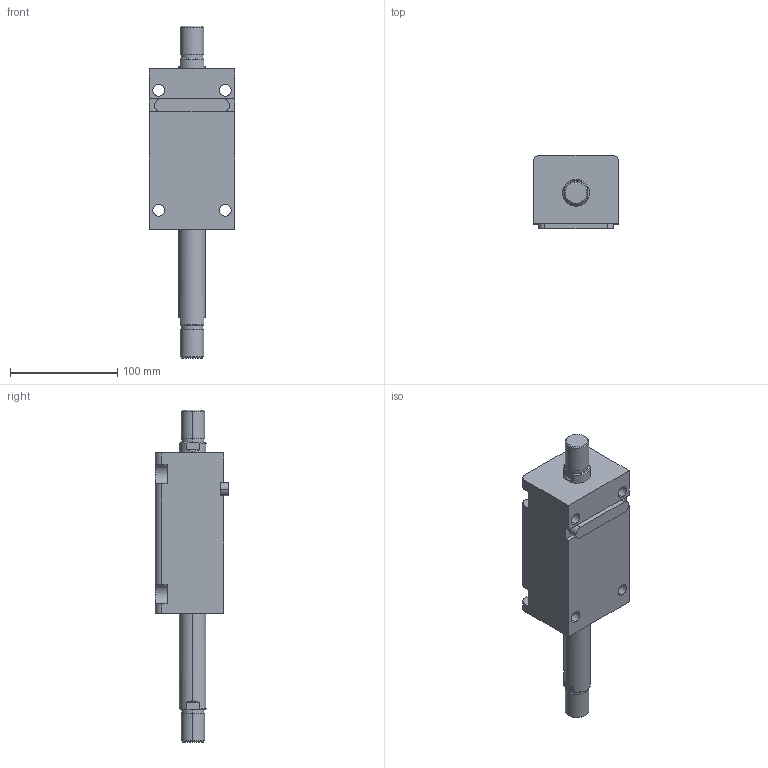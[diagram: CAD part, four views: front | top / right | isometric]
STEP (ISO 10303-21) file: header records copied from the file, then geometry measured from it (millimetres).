
FILE_DESCRIPTION (( 'STEP AP203' ), '1' );
FILE_NAME ('HTB-LW40-85W.STEP', '2019-10-09T07:58:58', ( '微软用户' ), ( '微软中国' ), 'SwSTEP 2.0', 'SolidWorks 2012', '' );
FILE_SCHEMA (( 'CONFIG_CONTROL_DESIGN' ));
Length unit declared in the file: millimetre
Products named in the file (4): HTB-LW40-85W; HTB-LA40-瑩; HTB-LW40-85W活塞杆; HTB-LW40-85掛极
Assembly tree (3 placements, depth 2):
  HTB-LW40-85W
    HTB-LW40-85掛极
    HTB-LW40-85W活塞杆
    HTB-LA40-瑩
Bounding box: 80 x 68.5 x 310 mm (x, y, z)
Volume: 744105.6 mm3; surface area: 108498 mm2
Topology: 3 solids, 3 shells, 113 faces, 273 edges, 178 vertices
Faces by surface type: plane 48, cylinder 45, cone 12, torus 8
Entity records: 3779 total; most frequent: CARTESIAN_POINT 622, DIRECTION 617, ORIENTED_EDGE 546, EDGE_CURVE 273, AXIS2_PLACEMENT_3D 241, VERTEX_POINT 178, EDGE_LOOP 135, LINE 135
